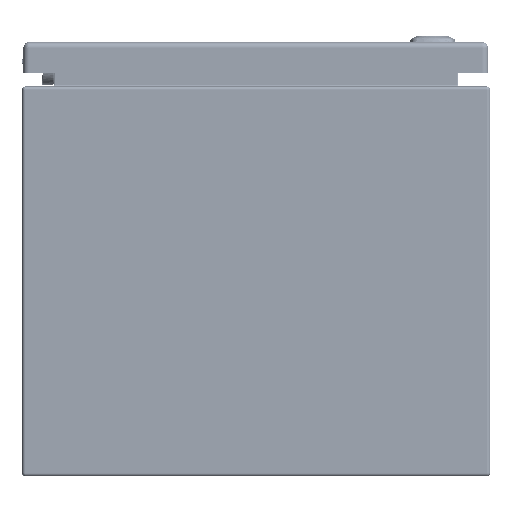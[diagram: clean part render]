
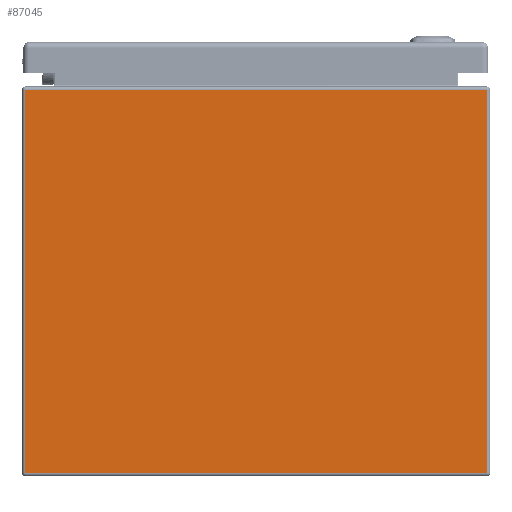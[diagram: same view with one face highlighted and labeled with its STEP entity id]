
A CAD part, front view. The second image highlights one B-rep face of the part: STEP entity #87045.
In plain terms, the highlighted planar face has unit normal (0, -1, 0).
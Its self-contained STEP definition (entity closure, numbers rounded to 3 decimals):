
#7684=LINE('',#121019,#13895);
#7691=LINE('',#121034,#13902);
#7693=LINE('',#121041,#13904);
#7695=LINE('',#121050,#13906);
#13895=VECTOR('',#100627,0.394);
#13902=VECTOR('',#100640,0.394);
#13904=VECTOR('',#100648,0.394);
#13906=VECTOR('',#100660,0.394);
#21393=FACE_OUTER_BOUND('',#26684,.T.);
#26684=EDGE_LOOP('',(#57823,#57824,#57825,#57826));
#35077=VERTEX_POINT('',#120989);
#35084=VERTEX_POINT('',#121015);
#35089=VERTEX_POINT('',#121033);
#35091=VERTEX_POINT('',#121039);
#43897=EDGE_CURVE('',#35077,#35084,#7684,.T.);
#43904=EDGE_CURVE('',#35084,#35089,#7691,.T.);
#43908=EDGE_CURVE('',#35091,#35077,#7693,.T.);
#43913=EDGE_CURVE('',#35091,#35089,#7695,.T.);
#57823=ORIENTED_EDGE('',*,*,#43897,.F.);
#57824=ORIENTED_EDGE('',*,*,#43908,.F.);
#57825=ORIENTED_EDGE('',*,*,#43913,.T.);
#57826=ORIENTED_EDGE('',*,*,#43904,.F.);
#84948=PLANE('',#93413);
#87045=ADVANCED_FACE('',(#21393),#84948,.F.);
#93413=AXIS2_PLACEMENT_3D('',#121061,#100674,#100675);
#100627=DIRECTION('',(1.,0.,0.));
#100640=DIRECTION('',(0.,0.,-1.));
#100648=DIRECTION('',(0.,0.,1.));
#100660=DIRECTION('',(1.,0.,0.));
#100674=DIRECTION('center_axis',(0.,1.,0.));
#100675=DIRECTION('ref_axis',(0.,0.,1.));
#120989=CARTESIAN_POINT('',(-5.916,-12.,9.916));
#121015=CARTESIAN_POINT('',(5.916,-12.,9.916));
#121019=CARTESIAN_POINT('',(2.979,-12.,9.916));
#121033=CARTESIAN_POINT('',(5.916,-12.,0.084));
#121034=CARTESIAN_POINT('',(5.916,-12.,5.));
#121039=CARTESIAN_POINT('',(-5.916,-12.,0.084));
#121041=CARTESIAN_POINT('',(-5.916,-12.,5.));
#121050=CARTESIAN_POINT('',(-2.958,-12.,0.084));
#121061=CARTESIAN_POINT('Origin',(0.,-12.,5.));
